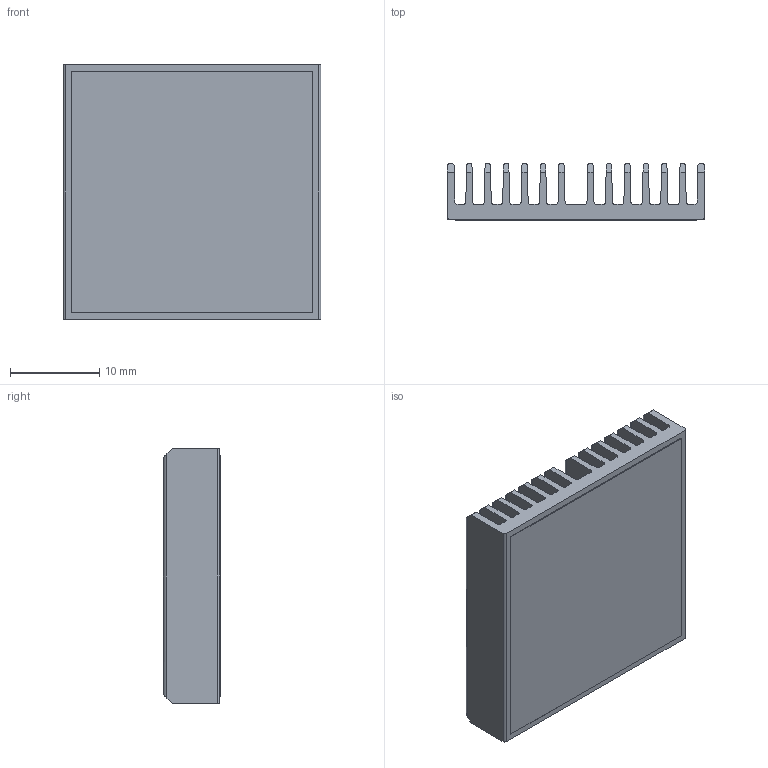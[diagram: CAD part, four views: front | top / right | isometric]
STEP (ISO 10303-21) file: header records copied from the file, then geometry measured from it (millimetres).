
FILE_DESCRIPTION (( 'STEP AP214' ), '1' );
FILE_NAME ('INL29001-6-1.7.STEP', '2023-02-21T22:43:01', ( '' ), ( '' ), 'SwSTEP 2.0', 'SolidWorks 2020', '' );
FILE_SCHEMA (( 'AUTOMOTIVE_DESIGN' ));
Length unit declared in the file: millimetre
Products named in the file (1): INL29001-6-1.7
Bounding box: 28.8 x 6.4 x 28.5 mm (x, y, z)
Volume: 2757.7 mm3; surface area: 6777.2 mm2
Topology: 2 solids, 2 shells, 120 faces, 348 edges, 232 vertices
Faces by surface type: plane 78, cylinder 42
Entity records: 5291 total; most frequent: CARTESIAN_POINT 785, ORIENTED_EDGE 696, DIRECTION 618, EDGE_CURVE 348, LINE 264, VECTOR 264, VERTEX_POINT 232, AXIS2_PLACEMENT_3D 177
